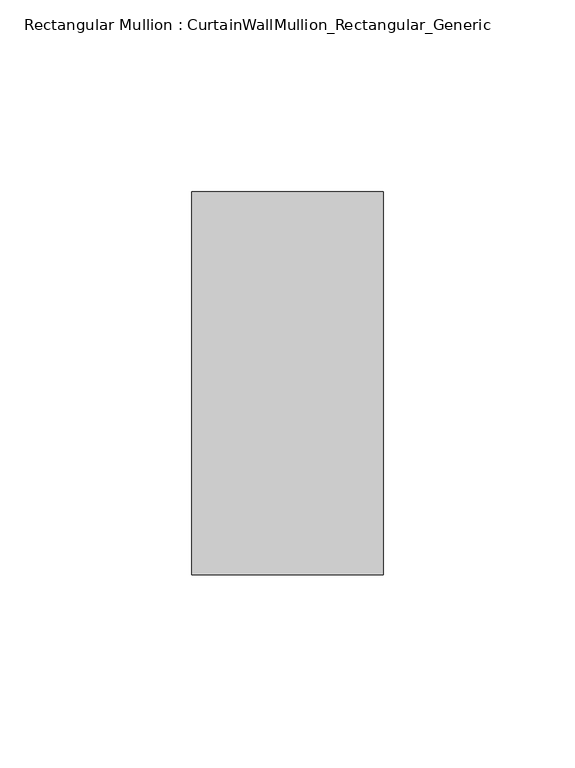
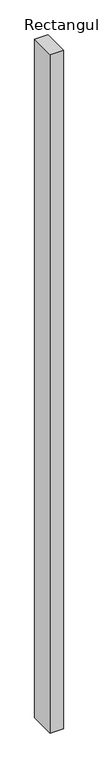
"""IFC4 building model written with IfcOpenShell, lengths in millimetres: member geometry, Rectangular Mullion : CurtainWallMullion_Rectangular_Generic."""

from ifc_helpers import new_model, si_unit, frame, origin, place, context, project, spatial, polyline, outline, extrude, source, transform, mapped, element, save


def rectangular_mullion_curtainwallmullion_rectangular_generic_ecbc4312(model_context):
    return source(origin(), model_context, "Body", "SweptSolid", [
        extrude(outline(polyline([(0.0, 50.0), (0.0, -50.0), (-50.0, -50.0), (-50.0, 50.0), (0.0, 50.0)])), frame((0.0, 0.0, -2701.9999998), z_axis=(0.0, 0.0, 1.0), x_axis=(1.0, 0.0, 0.0)), (0.0, 0.0, 1.0), 2701.9999998),
    ])


if __name__ == "__main__":
    model = new_model("IFC4")
    model_context = context("Model", 3, world=origin())
    ifc_project = project(units=[si_unit("LENGTHUNIT", "METRE", prefix="MILLI")], contexts=[model_context])
    site = spatial("IfcSite", under=ifc_project)
    building = spatial("IfcBuilding", under=site)
    placement = place(None, origin())
    rectangular_mullion_curtainwallmullion_rectangular_generic_shape = rectangular_mullion_curtainwallmullion_rectangular_generic_ecbc4312(model_context)
    element("IfcMember", 1, ObjectType="Rectangular Mullion : CurtainWallMullion_Rectangular_Generic", at=placement, inside=building, context=model_context, shape_type="MappedRepresentation", body=[
        mapped(rectangular_mullion_curtainwallmullion_rectangular_generic_shape, transform((0.0, 0.0, 0.0), x_axis=(1.0, 0.0, 0.0), y_axis=(0.0, 1.0, 0.0), z_axis=(0.0, 0.0, 1.0))),
    ])
    save(model, "model.ifc")
